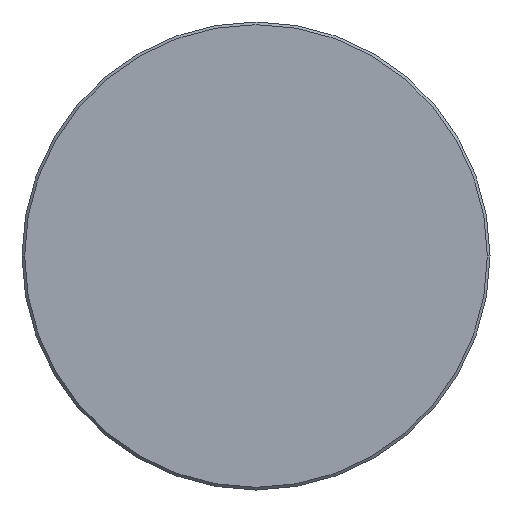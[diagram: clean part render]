
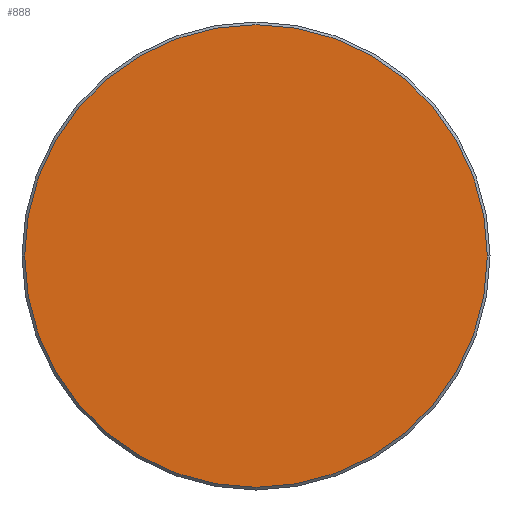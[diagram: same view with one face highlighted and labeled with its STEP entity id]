
A CAD part, left-side view. The second image highlights one B-rep face of the part: STEP entity #888.
In plain terms, the highlighted planar face has unit normal (-1, 0, 0).
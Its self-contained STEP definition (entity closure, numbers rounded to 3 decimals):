
#32 = CARTESIAN_POINT ( 'NONE',  ( -46., 17.3, 0. ) ) ;
#33 = DIRECTION ( 'NONE',  ( 0., -1., 0. ) ) ;
#34 = DIRECTION ( 'NONE',  ( -1., 0., 0. ) ) ;
#35 = CARTESIAN_POINT ( 'NONE',  ( -46., 0., 0. ) ) ;
#36 = AXIS2_PLACEMENT_3D ( 'NONE', #35, #34, #33 ) ;
#37 = CIRCLE ( 'NONE', #36, 17.3 ) ;
#38 = CARTESIAN_POINT ( 'NONE',  ( -46., -17.3, 0. ) ) ;
#499 = DIRECTION ( 'NONE',  ( 0., -1., 0. ) ) ;
#500 = DIRECTION ( 'NONE',  ( -1., 0., 0. ) ) ;
#501 = CARTESIAN_POINT ( 'NONE',  ( -46., 17.5, 0. ) ) ;
#503 = AXIS2_PLACEMENT_3D ( 'NONE', #501, #500, #499 ) ;
#504 = PLANE ( 'NONE',  #503 ) ;
#505 = FACE_OUTER_BOUND ( 'NONE', #925, .T. ) ;
#512 = DIRECTION ( 'NONE',  ( 0., -1., 0. ) ) ;
#513 = DIRECTION ( 'NONE',  ( -1., 0., 0. ) ) ;
#514 = CARTESIAN_POINT ( 'NONE',  ( -46., 0., 0. ) ) ;
#515 = AXIS2_PLACEMENT_3D ( 'NONE', #514, #513, #512 ) ;
#516 = CIRCLE ( 'NONE', #515, 17.3 ) ;
#699 = EDGE_CURVE ( 'NONE', #700, #701, #37, .T. ) ;
#700 = VERTEX_POINT ( 'NONE', #38 ) ;
#701 = VERTEX_POINT ( 'NONE', #32 ) ;
#874 = ORIENTED_EDGE ( 'NONE', *, *, #699, .T. ) ;
#888 = ADVANCED_FACE ( 'NONE', ( #505 ), #504, .T. ) ;
#914 = ORIENTED_EDGE ( 'NONE', *, *, #915, .T. ) ;
#915 = EDGE_CURVE ( 'NONE', #701, #700, #516, .T. ) ;
#925 = EDGE_LOOP ( 'NONE', ( #914, #874 ) ) ;
